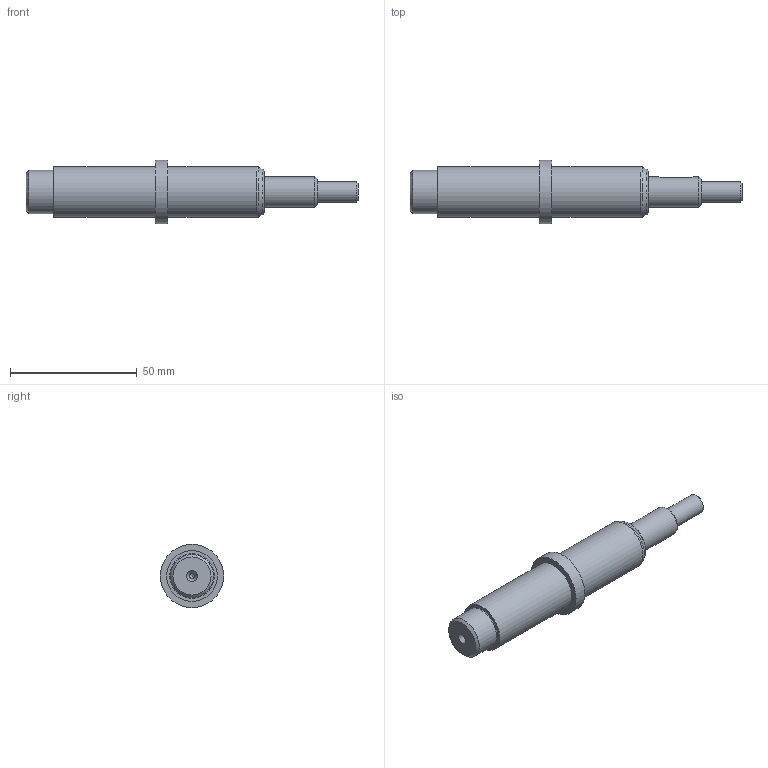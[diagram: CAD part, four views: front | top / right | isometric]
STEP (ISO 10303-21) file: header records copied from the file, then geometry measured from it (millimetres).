
FILE_DESCRIPTION(/* description */ (''),/* implementation_level */ '2;1');
FILE_NAME(/* name */ '',/* time_stamp */ '2024-11-28T15:12:13+09:00',/* author */ ('jhkim'),/* organization */ (''),/* preprocessor_version */ 'ST-DEVELOPER v20',/* originating_system */ 'Autodesk Inventor 2025',/* authorisation */ '');
FILE_SCHEMA (('AUTOMOTIVE_DESIGN { 1 0 10303 214 3 1 1 }'));
Length unit declared in the file: millimetre
Products named in the file (1): 축
Bounding box: 131 x 25 x 25 mm (x, y, z)
Volume: 32314.4 mm3; surface area: 8009.7 mm2
Topology: 1 solids, 1 shells, 31 faces, 65 edges, 42 vertices
Faces by surface type: cylinder 10, plane 10, cone 8, torus 3
Full cylindrical faces by diameter (mm): 1 x1, 2 x1, 8 x1, 12 x1, 17 x1, 20 x2, 25 x1
Entity records: 903 total; most frequent: CARTESIAN_POINT 173, DIRECTION 158, ORIENTED_EDGE 126, AXIS2_PLACEMENT_3D 67, EDGE_CURVE 63, VERTEX_POINT 42, EDGE_LOOP 39, CIRCLE 35
